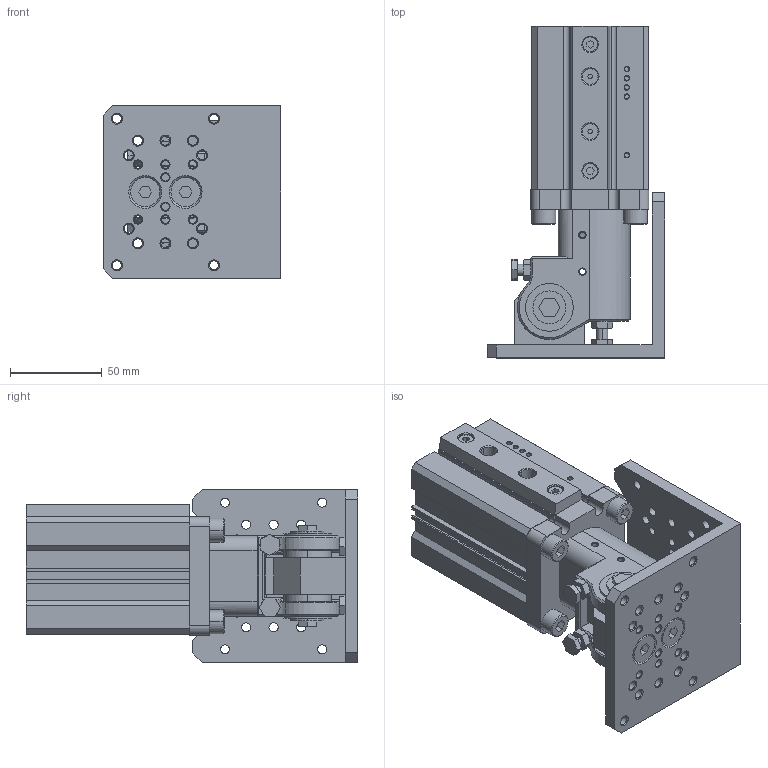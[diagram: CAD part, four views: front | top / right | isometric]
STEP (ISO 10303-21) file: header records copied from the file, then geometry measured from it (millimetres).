
FILE_DESCRIPTION(/* description */ (''),/* implementation_level */ '2;1');
FILE_NAME(/* name */ 'DHR2C-50M35PPV-ZG-LB.stp',/* time_stamp */ '2025-04-09T11:17:50+08:00',/* author */ (''),/* organization */ (''),/* preprocessor_version */ 'ST-DEVELOPER v15',/* originating_system */ 'SIEMENS PLM Software NX 10.0',/* authorisation */ '');
FILE_SCHEMA (('AP203_CONFIGURATION_CONTROLLED_3D_DESIGN_OF_MECHANICAL_PARTS_AND_ASSEMBLIES_MIM_LF { 1 0 10303 403 2 1 2}'));
Length unit declared in the file: millimetre
Products named in the file (1): Admi00C8E5C0fdvx
Bounding box: 97 x 181.01 x 94 mm (x, y, z)
Volume: 631571.9 mm3; surface area: 158371.7 mm2
Topology: 33 solids, 33 shells, 870 faces, 2040 edges, 1286 vertices
Faces by surface type: plane 370, cylinder 264, cone 222, bspline 10, torus 4
Full cylindrical faces by diameter (mm): 4.2 x16, 5 x28, 8 x2, 8.5 x2, 12 x1
Entity records: 25573 total; most frequent: CARTESIAN_POINT 5634, DIRECTION 4192, ORIENTED_EDGE 3822, EDGE_CURVE 1911, AXIS2_PLACEMENT_3D 1593, VERTEX_POINT 1254, EDGE_LOOP 1175, LINE 1006
